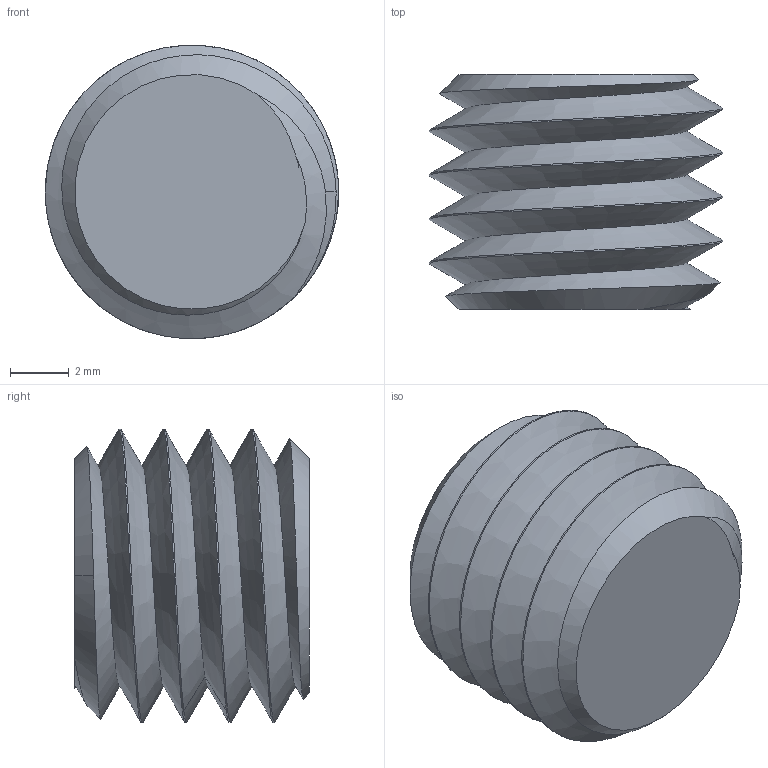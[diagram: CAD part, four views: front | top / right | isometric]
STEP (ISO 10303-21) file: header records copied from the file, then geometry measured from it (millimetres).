
FILE_DESCRIPTION (( 'STEP AP214' ), '1' );
FILE_NAME ('LS.step', '2025-12-23T15:53:18', ( '' ), ( '' ), 'SwSTEP 2.0', 'SolidWorks 2026', '' );
FILE_SCHEMA (( 'AUTOMOTIVE_DESIGN' ));
Length unit declared in the file: inch
Products named in the file (1): LS
Bounding box: 10 x 8 x 9.99 mm (x, y, z)
Volume: 429.7 mm3; surface area: 557.5 mm2
Topology: 1 solids, 1 shells, 52 faces, 130 edges, 73 vertices
Faces by surface type: cylinder 25, plane 11, sphere 8, cone 4, bspline 4
Entity records: 2730 total; most frequent: CARTESIAN_POINT 1594, ORIENTED_EDGE 244, DIRECTION 206, EDGE_CURVE 122, AXIS2_PLACEMENT_3D 78, VERTEX_POINT 73, EDGE_LOOP 53, ADVANCED_FACE 52
